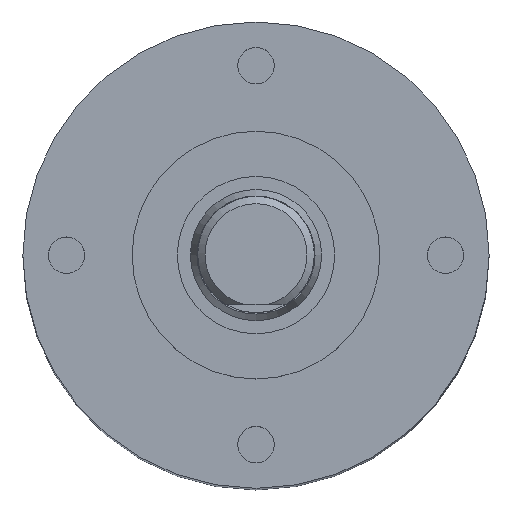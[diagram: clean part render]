
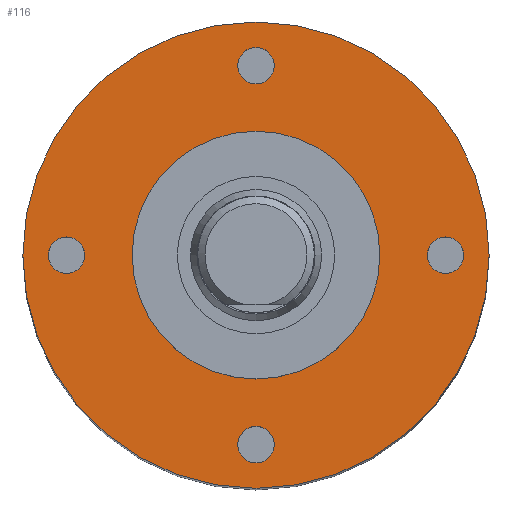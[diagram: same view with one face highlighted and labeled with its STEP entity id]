
A CAD part, top view. The second image highlights one B-rep face of the part: STEP entity #116.
In plain terms, the highlighted planar face has unit normal (0, 0, 1).
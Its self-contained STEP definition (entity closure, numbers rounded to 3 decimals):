
#34=PLANE('',#545);
#56=FACE_BOUND('',#182,.T.);
#57=FACE_BOUND('',#183,.T.);
#58=FACE_BOUND('',#184,.T.);
#59=FACE_BOUND('',#185,.T.);
#60=FACE_BOUND('',#186,.T.);
#61=FACE_BOUND('',#187,.T.);
#116=ADVANCED_FACE('',(#56,#57,#58,#59,#60,#61),#34,.T.);
#182=EDGE_LOOP('',(#267));
#183=EDGE_LOOP('',(#268));
#184=EDGE_LOOP('',(#269));
#185=EDGE_LOOP('',(#270));
#186=EDGE_LOOP('',(#271));
#187=EDGE_LOOP('',(#272));
#267=ORIENTED_EDGE('',*,*,#389,.T.);
#268=ORIENTED_EDGE('',*,*,#390,.T.);
#269=ORIENTED_EDGE('',*,*,#391,.T.);
#270=ORIENTED_EDGE('',*,*,#392,.T.);
#271=ORIENTED_EDGE('',*,*,#393,.F.);
#272=ORIENTED_EDGE('',*,*,#387,.T.);
#348=VERTEX_POINT('',#810);
#350=VERTEX_POINT('',#816);
#351=VERTEX_POINT('',#818);
#352=VERTEX_POINT('',#820);
#353=VERTEX_POINT('',#822);
#354=VERTEX_POINT('',#824);
#387=EDGE_CURVE('',#348,#348,#457,.T.);
#389=EDGE_CURVE('',#350,#350,#459,.T.);
#390=EDGE_CURVE('',#351,#351,#460,.T.);
#391=EDGE_CURVE('',#352,#352,#461,.T.);
#392=EDGE_CURVE('',#353,#353,#462,.T.);
#393=EDGE_CURVE('',#354,#354,#463,.T.);
#457=CIRCLE('',#536,16.);
#459=CIRCLE('',#540,1.25);
#460=CIRCLE('',#541,1.25);
#461=CIRCLE('',#542,1.25);
#462=CIRCLE('',#543,1.25);
#463=CIRCLE('',#544,8.5);
#536=AXIS2_PLACEMENT_3D('',#809,#638,#639);
#540=AXIS2_PLACEMENT_3D('',#815,#646,#647);
#541=AXIS2_PLACEMENT_3D('',#817,#648,#649);
#542=AXIS2_PLACEMENT_3D('',#819,#650,#651);
#543=AXIS2_PLACEMENT_3D('',#821,#652,#653);
#544=AXIS2_PLACEMENT_3D('',#823,#654,#655);
#545=AXIS2_PLACEMENT_3D('',#825,#656,#657);
#638=DIRECTION('',(0.,0.,1.));
#639=DIRECTION('',(1.,0.,0.));
#646=DIRECTION('',(0.,0.,-1.));
#647=DIRECTION('',(0.,-1.,0.));
#648=DIRECTION('',(0.,0.,-1.));
#649=DIRECTION('',(1.,0.,0.));
#650=DIRECTION('',(0.,0.,-1.));
#651=DIRECTION('',(0.,1.,0.));
#652=DIRECTION('',(0.,0.,-1.));
#653=DIRECTION('',(-1.,0.,0.));
#654=DIRECTION('',(0.,0.,1.));
#655=DIRECTION('',(1.,0.,0.));
#656=DIRECTION('',(0.,0.,1.));
#657=DIRECTION('',(1.,0.,0.));
#809=CARTESIAN_POINT('',(0.,0.,65.));
#810=CARTESIAN_POINT('',(16.,0.,65.));
#815=CARTESIAN_POINT('',(-13.,0.,65.));
#816=CARTESIAN_POINT('',(-13.,-1.25,65.));
#817=CARTESIAN_POINT('',(0.,-13.,65.));
#818=CARTESIAN_POINT('',(1.25,-13.,65.));
#819=CARTESIAN_POINT('',(13.,0.,65.));
#820=CARTESIAN_POINT('',(13.,1.25,65.));
#821=CARTESIAN_POINT('',(0.,13.,65.));
#822=CARTESIAN_POINT('',(-1.25,13.,65.));
#823=CARTESIAN_POINT('',(0.,0.,65.));
#824=CARTESIAN_POINT('',(8.5,0.,65.));
#825=CARTESIAN_POINT('',(0.,0.,65.));
